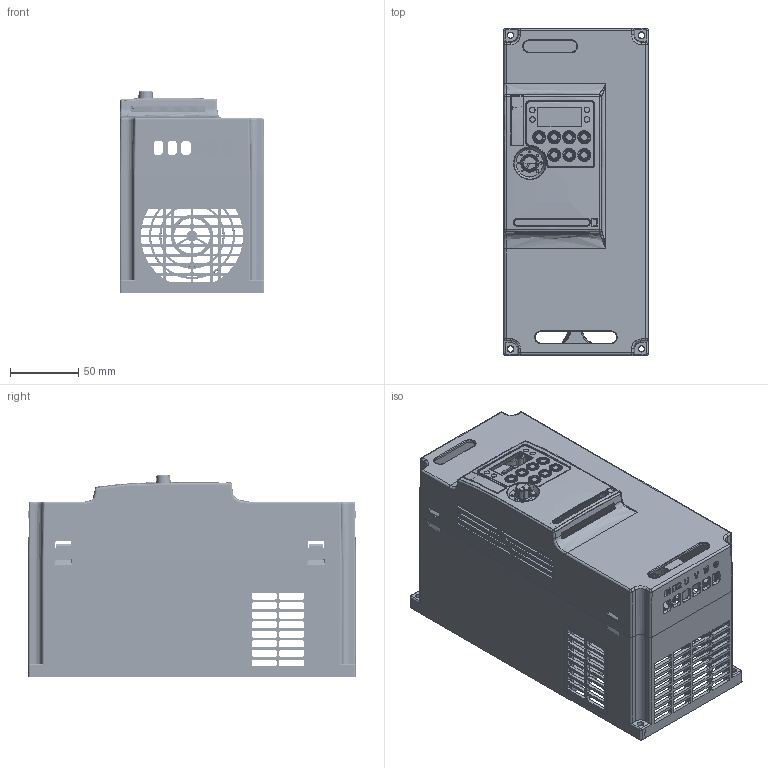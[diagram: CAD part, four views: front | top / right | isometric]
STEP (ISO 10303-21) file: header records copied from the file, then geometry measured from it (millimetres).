
FILE_DESCRIPTION (( 'STEP AP203' ), '1' );
FILE_NAME ('7_5-11kw.STEP', '2019-05-24T13:14:12', ( '' ), ( '' ), 'SwSTEP 2.0', 'SolidWorks 2012', '' );
FILE_SCHEMA (( 'CONFIG_CONTROL_DESIGN' ));
Length unit declared in the file: millimetre
Products named in the file (1): 7_5-11kw
Bounding box: 106.02 x 240.02 x 148.5 mm (x, y, z)
Surface area: 311052.5 mm2 (no closed solid volume)
Topology: 0 solids, 3006 shells, 3544 faces, 18166 edges, 17612 vertices
Faces by surface type: plane 1768, cylinder 1264, bspline 324, cone 188
Entity records: 243399 total; most frequent: CARTESIAN_POINT 114217, DIRECTION 22249, ORIENTED_EDGE 18688, EDGE_CURVE 18150, VERTEX_POINT 17612, LINE 11249, VECTOR 11249, AXIS2_PLACEMENT_3D 5500
